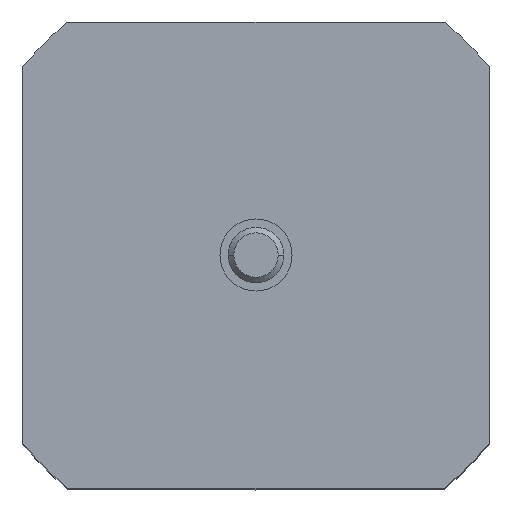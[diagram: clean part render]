
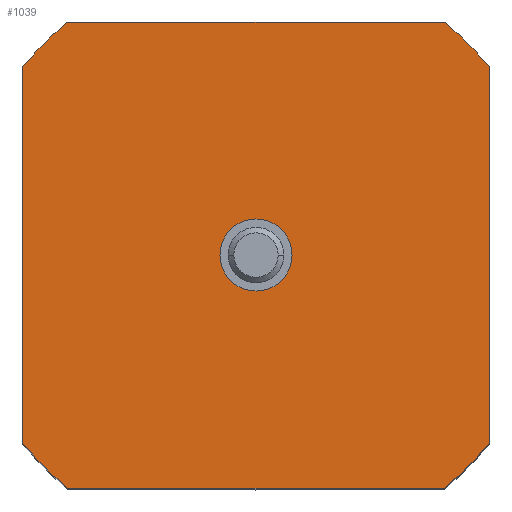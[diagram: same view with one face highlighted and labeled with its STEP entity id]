
A CAD part, top view. The second image highlights one B-rep face of the part: STEP entity #1039.
In plain terms, the highlighted planar face has unit normal (0, 0, 1).
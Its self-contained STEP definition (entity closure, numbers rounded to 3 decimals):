
#7 = CARTESIAN_POINT ( 'NONE',  ( 0., 21., 101. ) ) ;
#16 = DIRECTION ( 'NONE',  ( 0., 1., 0. ) ) ;
#46 = DIRECTION ( 'NONE',  ( 0., 1., 0. ) ) ;
#78 = AXIS2_PLACEMENT_3D ( 'NONE', #1352, #1469, #116 ) ;
#99 = DIRECTION ( 'NONE',  ( 1., 0., 0. ) ) ;
#100 = CIRCLE ( 'NONE', #386, 3.25 ) ;
#110 = EDGE_CURVE ( 'NONE', #540, #391, #1446, .T. ) ;
#116 = DIRECTION ( 'NONE',  ( 1., 0., 0. ) ) ;
#125 = DIRECTION ( 'NONE',  ( 0., 0., 1. ) ) ;
#140 = AXIS2_PLACEMENT_3D ( 'NONE', #155, #282, #1417 ) ;
#155 = CARTESIAN_POINT ( 'NONE',  ( 0., 0., 101. ) ) ;
#226 = CARTESIAN_POINT ( 'NONE',  ( 0., -21., 101. ) ) ;
#250 = ORIENTED_EDGE ( 'NONE', *, *, #978, .T. ) ;
#252 = CARTESIAN_POINT ( 'NONE',  ( -21., -16.971, 101. ) ) ;
#263 = LINE ( 'NONE', #226, #1032 ) ;
#282 = DIRECTION ( 'NONE',  ( 0., 0., -1. ) ) ;
#309 = ORIENTED_EDGE ( 'NONE', *, *, #676, .T. ) ;
#386 = AXIS2_PLACEMENT_3D ( 'NONE', #1358, #1231, #99 ) ;
#391 = VERTEX_POINT ( 'NONE', #473 ) ;
#392 = CARTESIAN_POINT ( 'NONE',  ( 21., 0., 101. ) ) ;
#403 = CIRCLE ( 'NONE', #140, 3.25 ) ;
#433 = EDGE_LOOP ( 'NONE', ( #1504, #482, #1560, #1150, #309, #928, #1253, #722 ) ) ;
#473 = CARTESIAN_POINT ( 'NONE',  ( -21., 16.971, 101. ) ) ;
#482 = ORIENTED_EDGE ( 'NONE', *, *, #1489, .T. ) ;
#491 = CIRCLE ( 'NONE', #1024, 27. ) ;
#493 = CARTESIAN_POINT ( 'NONE',  ( 16.971, -21., 101. ) ) ;
#508 = DIRECTION ( 'NONE',  ( 0., 1., 0. ) ) ;
#534 = FACE_OUTER_BOUND ( 'NONE', #433, .T. ) ;
#540 = VERTEX_POINT ( 'NONE', #1086 ) ;
#555 = EDGE_CURVE ( 'NONE', #580, #540, #1224, .T. ) ;
#562 = ORIENTED_EDGE ( 'NONE', *, *, #719, .T. ) ;
#567 = VERTEX_POINT ( 'NONE', #995 ) ;
#580 = VERTEX_POINT ( 'NONE', #1008 ) ;
#587 = EDGE_CURVE ( 'NONE', #793, #1042, #769, .T. ) ;
#636 = EDGE_CURVE ( 'NONE', #1005, #793, #823, .T. ) ;
#649 = AXIS2_PLACEMENT_3D ( 'NONE', #1003, #125, #16 ) ;
#666 = DIRECTION ( 'NONE',  ( 0., 0., 1. ) ) ;
#676 = EDGE_CURVE ( 'NONE', #1042, #580, #1348, .T. ) ;
#719 = EDGE_CURVE ( 'NONE', #1315, #567, #403, .T. ) ;
#722 = ORIENTED_EDGE ( 'NONE', *, *, #1307, .T. ) ;
#759 = EDGE_LOOP ( 'NONE', ( #562, #250 ) ) ;
#769 = LINE ( 'NONE', #392, #899 ) ;
#793 = VERTEX_POINT ( 'NONE', #1567 ) ;
#803 = DIRECTION ( 'NONE',  ( 0., 0., 1. ) ) ;
#823 = CIRCLE ( 'NONE', #649, 27. ) ;
#868 = VERTEX_POINT ( 'NONE', #1455 ) ;
#879 = DIRECTION ( 'NONE',  ( -1., 0., 0. ) ) ;
#899 = VECTOR ( 'NONE', #508, 1000. ) ;
#901 = DIRECTION ( 'NONE',  ( 0., 0., 1. ) ) ;
#928 = ORIENTED_EDGE ( 'NONE', *, *, #555, .T. ) ;
#931 = DIRECTION ( 'NONE',  ( 0., 1., 0. ) ) ;
#972 = PLANE ( 'NONE',  #78 ) ;
#973 = FACE_BOUND ( 'NONE', #759, .T. ) ;
#978 = EDGE_CURVE ( 'NONE', #567, #1315, #100, .T. ) ;
#995 = CARTESIAN_POINT ( 'NONE',  ( -3.25, 0., 101. ) ) ;
#1003 = CARTESIAN_POINT ( 'NONE',  ( 0., 0., 101. ) ) ;
#1004 = AXIS2_PLACEMENT_3D ( 'NONE', #1409, #666, #46 ) ;
#1005 = VERTEX_POINT ( 'NONE', #493 ) ;
#1008 = CARTESIAN_POINT ( 'NONE',  ( 16.971, 21., 101. ) ) ;
#1024 = AXIS2_PLACEMENT_3D ( 'NONE', #1301, #803, #931 ) ;
#1032 = VECTOR ( 'NONE', #1192, 1000. ) ;
#1039 = ADVANCED_FACE ( 'NONE', ( #973, #534 ), #972, .T. ) ;
#1042 = VERTEX_POINT ( 'NONE', #1225 ) ;
#1045 = CARTESIAN_POINT ( 'NONE',  ( -21., 0., 101. ) ) ;
#1086 = CARTESIAN_POINT ( 'NONE',  ( -16.971, 21., 101. ) ) ;
#1087 = LINE ( 'NONE', #1045, #1343 ) ;
#1150 = ORIENTED_EDGE ( 'NONE', *, *, #587, .T. ) ;
#1192 = DIRECTION ( 'NONE',  ( 1., 0., 0. ) ) ;
#1224 = LINE ( 'NONE', #7, #1308 ) ;
#1225 = CARTESIAN_POINT ( 'NONE',  ( 21., 16.971, 101. ) ) ;
#1231 = DIRECTION ( 'NONE',  ( 0., 0., -1. ) ) ;
#1253 = ORIENTED_EDGE ( 'NONE', *, *, #110, .T. ) ;
#1254 = CARTESIAN_POINT ( 'NONE',  ( 0., 0., 101. ) ) ;
#1273 = DIRECTION ( 'NONE',  ( 0., 1., 0. ) ) ;
#1287 = CARTESIAN_POINT ( 'NONE',  ( 3.25, 0., 101. ) ) ;
#1301 = CARTESIAN_POINT ( 'NONE',  ( 0., 0., 101. ) ) ;
#1307 = EDGE_CURVE ( 'NONE', #391, #1580, #1087, .T. ) ;
#1308 = VECTOR ( 'NONE', #879, 1000. ) ;
#1315 = VERTEX_POINT ( 'NONE', #1287 ) ;
#1343 = VECTOR ( 'NONE', #1530, 1000. ) ;
#1348 = CIRCLE ( 'NONE', #1004, 27. ) ;
#1352 = CARTESIAN_POINT ( 'NONE',  ( -21., -21., 101. ) ) ;
#1358 = CARTESIAN_POINT ( 'NONE',  ( 0., 0., 101. ) ) ;
#1374 = EDGE_CURVE ( 'NONE', #1580, #868, #491, .T. ) ;
#1409 = CARTESIAN_POINT ( 'NONE',  ( 0., 0., 101. ) ) ;
#1417 = DIRECTION ( 'NONE',  ( 1., 0., 0. ) ) ;
#1446 = CIRCLE ( 'NONE', #1563, 27. ) ;
#1455 = CARTESIAN_POINT ( 'NONE',  ( -16.971, -21., 101. ) ) ;
#1469 = DIRECTION ( 'NONE',  ( 0., 0., 1. ) ) ;
#1489 = EDGE_CURVE ( 'NONE', #868, #1005, #263, .T. ) ;
#1504 = ORIENTED_EDGE ( 'NONE', *, *, #1374, .T. ) ;
#1530 = DIRECTION ( 'NONE',  ( 0., -1., 0. ) ) ;
#1560 = ORIENTED_EDGE ( 'NONE', *, *, #636, .T. ) ;
#1563 = AXIS2_PLACEMENT_3D ( 'NONE', #1254, #901, #1273 ) ;
#1567 = CARTESIAN_POINT ( 'NONE',  ( 21., -16.971, 101. ) ) ;
#1580 = VERTEX_POINT ( 'NONE', #252 ) ;
